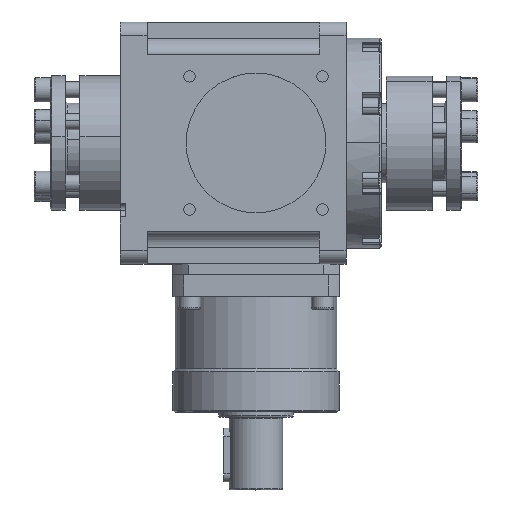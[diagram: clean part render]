
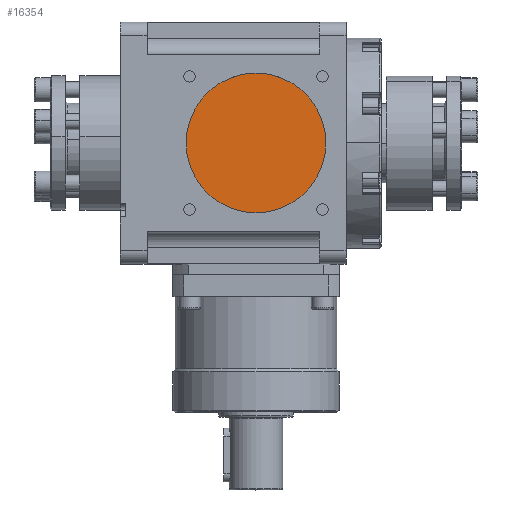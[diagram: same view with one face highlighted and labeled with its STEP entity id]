
A CAD part, top view. The second image highlights one B-rep face of the part: STEP entity #16354.
In plain terms, the highlighted planar face has unit normal (0, 0, 1).
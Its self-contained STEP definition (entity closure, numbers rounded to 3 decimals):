
#514 = CARTESIAN_POINT ( 'NONE',  ( 17., 0., 41. ) ) ;
#928 = AXIS2_PLACEMENT_3D ( 'NONE', #514, #6717, #12899 ) ;
#2266 = EDGE_CURVE ( 'NONE', #18180, #13547, #15841, .T. ) ;
#3014 = CIRCLE ( 'NONE', #5939, 26. ) ;
#3409 = FACE_OUTER_BOUND ( 'NONE', #14785, .T. ) ;
#3701 = PLANE ( 'NONE',  #7266 ) ;
#4271 = CARTESIAN_POINT ( 'NONE',  ( 17., 0., 41. ) ) ;
#5939 = AXIS2_PLACEMENT_3D ( 'NONE', #4271, #16844, #13598 ) ;
#6717 = DIRECTION ( 'NONE',  ( 0., 0., 1. ) ) ;
#7266 = AXIS2_PLACEMENT_3D ( 'NONE', #9615, #14467, #11434 ) ;
#9615 = CARTESIAN_POINT ( 'NONE',  ( 17., 0., 41. ) ) ;
#11309 = ORIENTED_EDGE ( 'NONE', *, *, #15742, .T. ) ;
#11434 = DIRECTION ( 'NONE',  ( -1., 0., 0. ) ) ;
#12654 = ORIENTED_EDGE ( 'NONE', *, *, #2266, .T. ) ;
#12899 = DIRECTION ( 'NONE',  ( -1., 0., 0. ) ) ;
#13547 = VERTEX_POINT ( 'NONE', #17482 ) ;
#13598 = DIRECTION ( 'NONE',  ( -1., 0., 0. ) ) ;
#14125 = CARTESIAN_POINT ( 'NONE',  ( 43., 0., 41. ) ) ;
#14467 = DIRECTION ( 'NONE',  ( 0., 0., 1. ) ) ;
#14785 = EDGE_LOOP ( 'NONE', ( #12654, #11309 ) ) ;
#15742 = EDGE_CURVE ( 'NONE', #13547, #18180, #3014, .T. ) ;
#15841 = CIRCLE ( 'NONE', #928, 26. ) ;
#16354 = ADVANCED_FACE ( 'NONE', ( #3409 ), #3701, .T. ) ;
#16844 = DIRECTION ( 'NONE',  ( 0., 0., 1. ) ) ;
#17482 = CARTESIAN_POINT ( 'NONE',  ( -9., 0., 41. ) ) ;
#18180 = VERTEX_POINT ( 'NONE', #14125 ) ;
